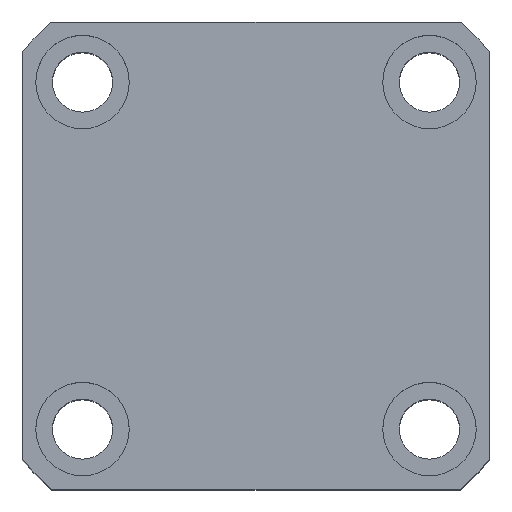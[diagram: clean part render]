
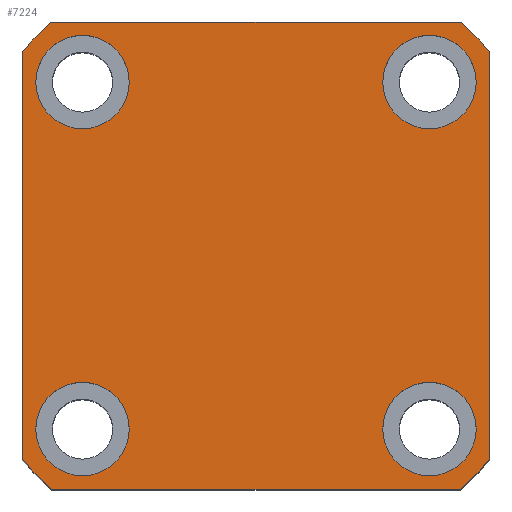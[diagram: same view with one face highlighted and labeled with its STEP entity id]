
A CAD part, top view. The second image highlights one B-rep face of the part: STEP entity #7224.
In plain terms, the highlighted planar face has unit normal (0, 0, 1).
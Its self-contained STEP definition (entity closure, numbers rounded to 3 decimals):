
#99 = VERTEX_POINT ( 'NONE', #8643 ) ;
#168 = EDGE_CURVE ( 'NONE', #3340, #7225, #4240, .T. ) ;
#293 = AXIS2_PLACEMENT_3D ( 'NONE', #9241, #2259, #4238 ) ;
#387 = EDGE_CURVE ( 'NONE', #10175, #9307, #3951, .T. ) ;
#445 = CIRCLE ( 'NONE', #6201, 46.5 ) ;
#493 = EDGE_CURVE ( 'NONE', #2926, #9616, #5533, .T. ) ;
#523 = DIRECTION ( 'NONE',  ( 0., 0., 1. ) ) ;
#579 = EDGE_CURVE ( 'NONE', #8040, #6327, #7335, .T. ) ;
#614 = EDGE_CURVE ( 'NONE', #2426, #8450, #2950, .T. ) ;
#622 = VERTEX_POINT ( 'NONE', #6099 ) ;
#654 = EDGE_CURVE ( 'NONE', #9616, #2926, #5024, .T. ) ;
#712 = VERTEX_POINT ( 'NONE', #2771 ) ;
#869 = CARTESIAN_POINT ( 'NONE',  ( 0., 0., 80. ) ) ;
#930 = EDGE_LOOP ( 'NONE', ( #1654, #9466 ) ) ;
#1068 = CARTESIAN_POINT ( 'NONE',  ( 26., -26., 80. ) ) ;
#1160 = AXIS2_PLACEMENT_3D ( 'NONE', #5312, #8336, #7208 ) ;
#1252 = LINE ( 'NONE', #5094, #9865 ) ;
#1301 = VERTEX_POINT ( 'NONE', #7890 ) ;
#1592 = AXIS2_PLACEMENT_3D ( 'NONE', #2899, #8404, #3708 ) ;
#1604 = ORIENTED_EDGE ( 'NONE', *, *, #7735, .F. ) ;
#1650 = DIRECTION ( 'NONE',  ( 0., 0., 1. ) ) ;
#1654 = ORIENTED_EDGE ( 'NONE', *, *, #5821, .F. ) ;
#1695 = DIRECTION ( 'NONE',  ( 0., 0., 1. ) ) ;
#1858 = DIRECTION ( 'NONE',  ( 1., 0., 0. ) ) ;
#1972 = CARTESIAN_POINT ( 'NONE',  ( -30.615, 35., 80. ) ) ;
#1975 = CIRCLE ( 'NONE', #1592, 46.5 ) ;
#2217 = AXIS2_PLACEMENT_3D ( 'NONE', #7487, #6499, #4992 ) ;
#2259 = DIRECTION ( 'NONE',  ( 0., 0., 1. ) ) ;
#2426 = VERTEX_POINT ( 'NONE', #1972 ) ;
#2529 = AXIS2_PLACEMENT_3D ( 'NONE', #869, #1650, #7133 ) ;
#2576 = VECTOR ( 'NONE', #8057, 1000. ) ;
#2720 = CIRCLE ( 'NONE', #3148, 7. ) ;
#2771 = CARTESIAN_POINT ( 'NONE',  ( 35., 30.615, 80. ) ) ;
#2781 = EDGE_CURVE ( 'NONE', #5482, #2906, #4778, .T. ) ;
#2815 = ORIENTED_EDGE ( 'NONE', *, *, #8895, .T. ) ;
#2873 = CARTESIAN_POINT ( 'NONE',  ( 30.615, -35., 80. ) ) ;
#2899 = CARTESIAN_POINT ( 'NONE',  ( 0., 0., 80. ) ) ;
#2906 = VERTEX_POINT ( 'NONE', #4344 ) ;
#2926 = VERTEX_POINT ( 'NONE', #5147 ) ;
#2950 = CIRCLE ( 'NONE', #1160, 46.5 ) ;
#3148 = AXIS2_PLACEMENT_3D ( 'NONE', #3995, #9461, #4774 ) ;
#3198 = VECTOR ( 'NONE', #5709, 1000. ) ;
#3208 = DIRECTION ( 'NONE',  ( 0., 0., 1. ) ) ;
#3217 = CARTESIAN_POINT ( 'NONE',  ( -19., -26., 80. ) ) ;
#3340 = VERTEX_POINT ( 'NONE', #9876 ) ;
#3422 = CARTESIAN_POINT ( 'NONE',  ( 26., 26., 80. ) ) ;
#3449 = LINE ( 'NONE', #7679, #9458 ) ;
#3493 = EDGE_CURVE ( 'NONE', #622, #8040, #445, .T. ) ;
#3562 = CARTESIAN_POINT ( 'NONE',  ( -30.615, -35., 80. ) ) ;
#3601 = FACE_OUTER_BOUND ( 'NONE', #3665, .T. ) ;
#3608 = DIRECTION ( 'NONE',  ( 0., 0., 1. ) ) ;
#3665 = EDGE_LOOP ( 'NONE', ( #7971, #2815, #10067, #10192, #10064, #5382, #9071, #9928 ) ) ;
#3708 = DIRECTION ( 'NONE',  ( 1., 0., 0. ) ) ;
#3725 = CIRCLE ( 'NONE', #7807, 7. ) ;
#3753 = DIRECTION ( 'NONE',  ( 0., 0., 1. ) ) ;
#3779 = AXIS2_PLACEMENT_3D ( 'NONE', #1068, #6566, #1858 ) ;
#3951 = CIRCLE ( 'NONE', #5045, 7. ) ;
#3995 = CARTESIAN_POINT ( 'NONE',  ( -26., -26., 80. ) ) ;
#4089 = DIRECTION ( 'NONE',  ( 1., 0., 0. ) ) ;
#4090 = FACE_BOUND ( 'NONE', #8804, .T. ) ;
#4238 = DIRECTION ( 'NONE',  ( 1., 0., 0. ) ) ;
#4240 = CIRCLE ( 'NONE', #293, 7. ) ;
#4275 = ORIENTED_EDGE ( 'NONE', *, *, #493, .F. ) ;
#4344 = CARTESIAN_POINT ( 'NONE',  ( 33., -26., 80. ) ) ;
#4357 = EDGE_CURVE ( 'NONE', #6327, #1301, #1975, .T. ) ;
#4551 = DIRECTION ( 'NONE',  ( 0., -1., 0. ) ) ;
#4774 = DIRECTION ( 'NONE',  ( 1., 0., 0. ) ) ;
#4778 = CIRCLE ( 'NONE', #3779, 7. ) ;
#4939 = CARTESIAN_POINT ( 'NONE',  ( -35., 30.615, 80. ) ) ;
#4992 = DIRECTION ( 'NONE',  ( 1., 0., 0. ) ) ;
#5024 = CIRCLE ( 'NONE', #2217, 7. ) ;
#5045 = AXIS2_PLACEMENT_3D ( 'NONE', #5405, #5337, #6590 ) ;
#5094 = CARTESIAN_POINT ( 'NONE',  ( -35., 35., 80. ) ) ;
#5132 = DIRECTION ( 'NONE',  ( -1., 0., 0. ) ) ;
#5147 = CARTESIAN_POINT ( 'NONE',  ( 33., 26., 80. ) ) ;
#5228 = CARTESIAN_POINT ( 'NONE',  ( 0., 0., 80. ) ) ;
#5312 = CARTESIAN_POINT ( 'NONE',  ( 0., 0., 80. ) ) ;
#5337 = DIRECTION ( 'NONE',  ( 0., 0., 1. ) ) ;
#5382 = ORIENTED_EDGE ( 'NONE', *, *, #3493, .T. ) ;
#5405 = CARTESIAN_POINT ( 'NONE',  ( -26., 26., 80. ) ) ;
#5482 = VERTEX_POINT ( 'NONE', #6540 ) ;
#5533 = CIRCLE ( 'NONE', #8737, 7. ) ;
#5576 = PLANE ( 'NONE',  #2529 ) ;
#5617 = CARTESIAN_POINT ( 'NONE',  ( -35., -35., 80. ) ) ;
#5636 = ORIENTED_EDGE ( 'NONE', *, *, #387, .F. ) ;
#5666 = FACE_BOUND ( 'NONE', #6815, .T. ) ;
#5709 = DIRECTION ( 'NONE',  ( 1., 0., 0. ) ) ;
#5719 = CARTESIAN_POINT ( 'NONE',  ( 19., 26., 80. ) ) ;
#5821 = EDGE_CURVE ( 'NONE', #7225, #3340, #2720, .T. ) ;
#5919 = FACE_BOUND ( 'NONE', #930, .T. ) ;
#6028 = DIRECTION ( 'NONE',  ( 1., 0., 0. ) ) ;
#6099 = CARTESIAN_POINT ( 'NONE',  ( -35., -30.615, 80. ) ) ;
#6184 = EDGE_CURVE ( 'NONE', #99, #2426, #1252, .T. ) ;
#6201 = AXIS2_PLACEMENT_3D ( 'NONE', #5228, #523, #6028 ) ;
#6327 = VERTEX_POINT ( 'NONE', #2873 ) ;
#6408 = CARTESIAN_POINT ( 'NONE',  ( 26., -26., 80. ) ) ;
#6499 = DIRECTION ( 'NONE',  ( 0., 0., 1. ) ) ;
#6540 = CARTESIAN_POINT ( 'NONE',  ( 19., -26., 80. ) ) ;
#6566 = DIRECTION ( 'NONE',  ( 0., 0., 1. ) ) ;
#6590 = DIRECTION ( 'NONE',  ( 1., 0., 0. ) ) ;
#6652 = CIRCLE ( 'NONE', #6940, 7. ) ;
#6815 = EDGE_LOOP ( 'NONE', ( #7195, #5636 ) ) ;
#6877 = CIRCLE ( 'NONE', #9210, 46.5 ) ;
#6940 = AXIS2_PLACEMENT_3D ( 'NONE', #8444, #3753, #9230 ) ;
#6982 = EDGE_CURVE ( 'NONE', #9307, #10175, #6652, .T. ) ;
#7133 = DIRECTION ( 'NONE',  ( 1., 0., 0. ) ) ;
#7179 = DIRECTION ( 'NONE',  ( 1., 0., 0. ) ) ;
#7195 = ORIENTED_EDGE ( 'NONE', *, *, #6982, .F. ) ;
#7208 = DIRECTION ( 'NONE',  ( 1., 0., 0. ) ) ;
#7224 = ADVANCED_FACE ( 'NONE', ( #5919, #4090, #7757, #5666, #3601 ), #5576, .T. ) ;
#7225 = VERTEX_POINT ( 'NONE', #3217 ) ;
#7335 = LINE ( 'NONE', #5617, #3198 ) ;
#7487 = CARTESIAN_POINT ( 'NONE',  ( 26., 26., 80. ) ) ;
#7679 = CARTESIAN_POINT ( 'NONE',  ( -35., 35., 80. ) ) ;
#7735 = EDGE_CURVE ( 'NONE', #2906, #5482, #3725, .T. ) ;
#7757 = FACE_BOUND ( 'NONE', #8846, .T. ) ;
#7807 = AXIS2_PLACEMENT_3D ( 'NONE', #6408, #1695, #7179 ) ;
#7890 = CARTESIAN_POINT ( 'NONE',  ( 35., -30.615, 80. ) ) ;
#7907 = CARTESIAN_POINT ( 'NONE',  ( 0., 0., 80. ) ) ;
#7971 = ORIENTED_EDGE ( 'NONE', *, *, #8461, .T. ) ;
#8040 = VERTEX_POINT ( 'NONE', #3562 ) ;
#8057 = DIRECTION ( 'NONE',  ( 0., 1., 0. ) ) ;
#8336 = DIRECTION ( 'NONE',  ( 0., 0., 1. ) ) ;
#8369 = ORIENTED_EDGE ( 'NONE', *, *, #654, .F. ) ;
#8404 = DIRECTION ( 'NONE',  ( 0., 0., 1. ) ) ;
#8422 = CARTESIAN_POINT ( 'NONE',  ( -19., 26., 80. ) ) ;
#8444 = CARTESIAN_POINT ( 'NONE',  ( -26., 26., 80. ) ) ;
#8450 = VERTEX_POINT ( 'NONE', #4939 ) ;
#8461 = EDGE_CURVE ( 'NONE', #1301, #712, #8622, .T. ) ;
#8622 = LINE ( 'NONE', #8854, #2576 ) ;
#8643 = CARTESIAN_POINT ( 'NONE',  ( 30.615, 35., 80. ) ) ;
#8704 = DIRECTION ( 'NONE',  ( 1., 0., 0. ) ) ;
#8737 = AXIS2_PLACEMENT_3D ( 'NONE', #3422, #3608, #4089 ) ;
#8765 = EDGE_CURVE ( 'NONE', #8450, #622, #3449, .T. ) ;
#8804 = EDGE_LOOP ( 'NONE', ( #1604, #9409 ) ) ;
#8846 = EDGE_LOOP ( 'NONE', ( #4275, #8369 ) ) ;
#8854 = CARTESIAN_POINT ( 'NONE',  ( 35., 35., 80. ) ) ;
#8895 = EDGE_CURVE ( 'NONE', #712, #99, #6877, .T. ) ;
#8994 = CARTESIAN_POINT ( 'NONE',  ( -33., 26., 80. ) ) ;
#9071 = ORIENTED_EDGE ( 'NONE', *, *, #579, .T. ) ;
#9210 = AXIS2_PLACEMENT_3D ( 'NONE', #7907, #3208, #8704 ) ;
#9230 = DIRECTION ( 'NONE',  ( 1., 0., 0. ) ) ;
#9241 = CARTESIAN_POINT ( 'NONE',  ( -26., -26., 80. ) ) ;
#9307 = VERTEX_POINT ( 'NONE', #8422 ) ;
#9409 = ORIENTED_EDGE ( 'NONE', *, *, #2781, .F. ) ;
#9458 = VECTOR ( 'NONE', #4551, 1000. ) ;
#9461 = DIRECTION ( 'NONE',  ( 0., 0., 1. ) ) ;
#9466 = ORIENTED_EDGE ( 'NONE', *, *, #168, .F. ) ;
#9616 = VERTEX_POINT ( 'NONE', #5719 ) ;
#9865 = VECTOR ( 'NONE', #5132, 1000. ) ;
#9876 = CARTESIAN_POINT ( 'NONE',  ( -33., -26., 80. ) ) ;
#9928 = ORIENTED_EDGE ( 'NONE', *, *, #4357, .T. ) ;
#10064 = ORIENTED_EDGE ( 'NONE', *, *, #8765, .T. ) ;
#10067 = ORIENTED_EDGE ( 'NONE', *, *, #6184, .T. ) ;
#10175 = VERTEX_POINT ( 'NONE', #8994 ) ;
#10192 = ORIENTED_EDGE ( 'NONE', *, *, #614, .T. ) ;
